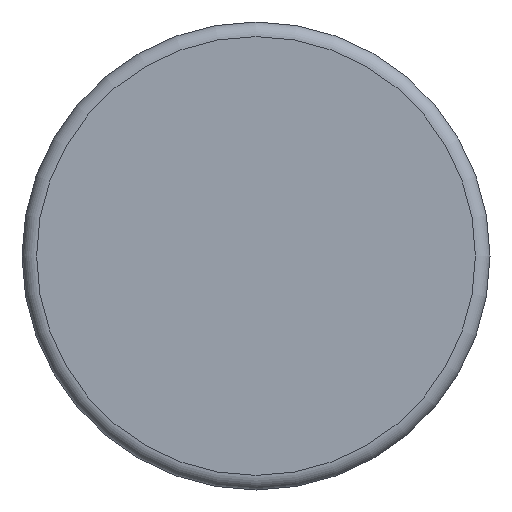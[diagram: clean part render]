
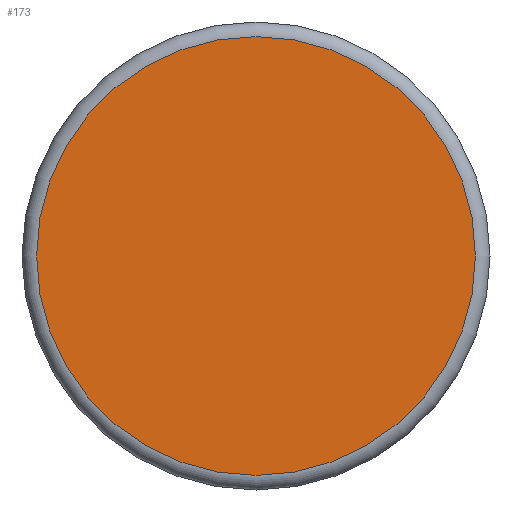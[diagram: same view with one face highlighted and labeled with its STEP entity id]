
A CAD part, front view. The second image highlights one B-rep face of the part: STEP entity #173.
In plain terms, the highlighted planar face has unit normal (0, -1, 0).
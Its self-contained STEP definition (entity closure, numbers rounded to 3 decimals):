
#173 = ADVANCED_FACE( '', ( #341 ), #342, .F. );
#341 = FACE_OUTER_BOUND( '', #523, .T. );
#342 = PLANE( '', #524 );
#523 = EDGE_LOOP( '', ( #774 ) );
#524 = AXIS2_PLACEMENT_3D( '', #775, #776, #777 );
#774 = ORIENTED_EDGE( '', *, *, #1083, .T. );
#775 = CARTESIAN_POINT( '', ( 15., 0., 0. ) );
#776 = DIRECTION( '', ( 0., 1., 0. ) );
#777 = DIRECTION( '', ( 0., 0., 1. ) );
#1083 = EDGE_CURVE( '', #1268, #1268, #1269, .T. );
#1268 = VERTEX_POINT( '', #1649 );
#1269 = CIRCLE( '', #1650, 15. );
#1649 = CARTESIAN_POINT( '', ( 0., 0., -15. ) );
#1650 = AXIS2_PLACEMENT_3D( '', #1870, #1871, #1872 );
#1870 = CARTESIAN_POINT( '', ( 0., 0., 0. ) );
#1871 = DIRECTION( '', ( 0., -1., 0. ) );
#1872 = DIRECTION( '', ( 0., 0., -1. ) );
